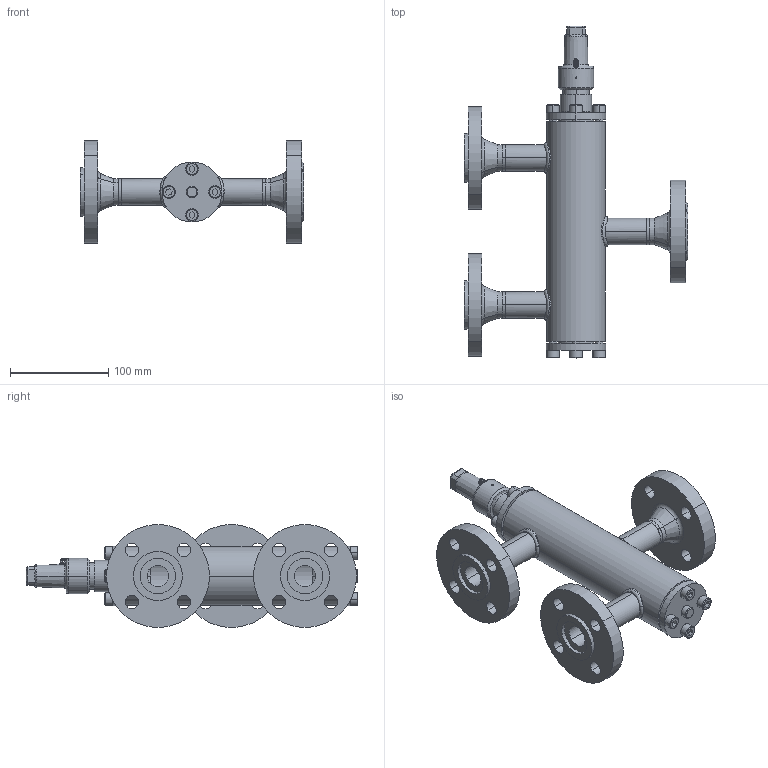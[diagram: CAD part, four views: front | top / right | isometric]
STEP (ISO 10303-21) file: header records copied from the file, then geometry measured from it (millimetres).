
FILE_DESCRIPTION (( 'STEP AP214' ), '1' );
FILE_NAME ('WVB23020D11-DN020_DIN-FL-N-F_PS40.STEP', '2010-09-08T08:38:01', ( 'Eckhard Grams' ), ( 'AWP Kälte Klima Armaturen GmbH' ), 'SwSTEP 2.0', 'SolidWorks 2002296', '' );
FILE_SCHEMA (( 'AUTOMOTIVE_DESIGN' ));
Length unit declared in the file: millimetre
Products named in the file (18): WVB23020D11-DN020_DIN-FL-N-F_PS40; Kappe 96300E10_DN6-20 (M27x2)_Standard; AVB16300K10_Deck+Schr-DN10-20_Standard; Deckel16300K10-DN10-20_Standard; Zylinderschraube-DIN912_M 8x  16; Geh,kpl24020E11-DN20_DIN-FL-N-F_PS40_Standard; bead24020-11-2_Standard; bead24020-11-1_Standard; bead24020-11-3_Standard; Flansch-DIN2635-Nut_PS40_DIN-Flansch-DN020_PS40-Nut; Flansch-DIN2635-Feder_PS40_DIN-Flansch-DN020_PS40-Feder; Geh,kpl24000E11_DN20_R1_PS40_Standard; Gehäuse24000E11-DN20_R1_PS40_Standard; Rohrstutzen-24000E11-DN20_R1_Standard; Schw-24000E11-DN20_Standard; WVB-R23000K10_Deck+Schr-DN10-20_Standard; Deckel24000E10-DN10-20_Standard; Zylinderschraube-DIN912_M 8x  25
Assembly tree (28 placements, depth 4):
  WVB23020D11-DN020_DIN-FL-N-F_PS40
    AVB16300K10_Deck+Schr-DN10-20_Standard
      Zylinderschraube-DIN912_M 8x  16  x4
      Deckel16300K10-DN10-20_Standard
    Geh,kpl24020E11-DN20_DIN-FL-N-F_PS40_Standard
      bead24020-11-3_Standard
      Flansch-DIN2635-Nut_PS40_DIN-Flansch-DN020_PS40-Nut
      Flansch-DIN2635-Feder_PS40_DIN-Flansch-DN020_PS40-Feder  x2
      bead24020-11-1_Standard
      Geh,kpl24000E11_DN20_R1_PS40_Standard
        Rohrstutzen-24000E11-DN20_R1_Standard  x3
        Gehäuse24000E11-DN20_R1_PS40_Standard
        Schw-24000E11-DN20_Standard  x3
      bead24020-11-2_Standard
    WVB-R23000K10_Deck+Schr-DN10-20_Standard
      Zylinderschraube-DIN912_M 8x  25  x4
      Deckel24000E10-DN10-20_Standard
    Kappe 96300E10_DN6-20 (M27x2)_Standard
Bounding box: 228 x 338.5 x 104.6 mm (x, y, z)
Volume: 948663 mm3; surface area: 223221.6 mm2
Topology: 24 solids, 24 shells, 517 faces, 1191 edges, 749 vertices
Faces by surface type: cylinder 224, plane 145, cone 67, torus 47, bspline 34
Entity records: 27970 total; most frequent: CARTESIAN_POINT 18729, DIRECTION 1727, ORIENTED_EDGE 1614, EDGE_CURVE 807, AXIS2_PLACEMENT_3D 733, VERTEX_POINT 507, EDGE_LOOP 416, CIRCLE 382
